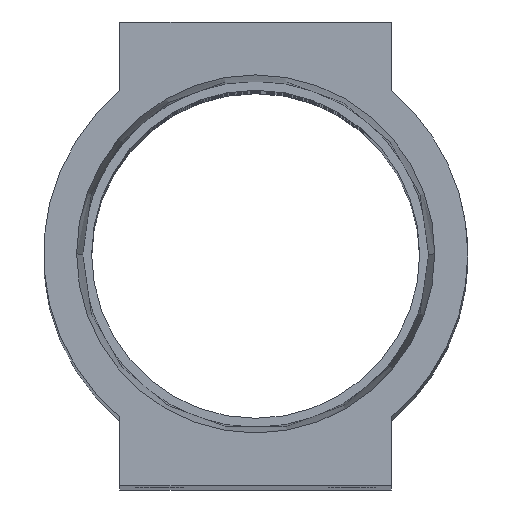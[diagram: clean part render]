
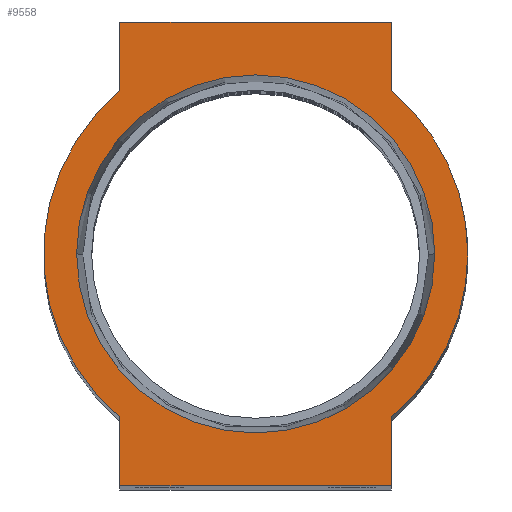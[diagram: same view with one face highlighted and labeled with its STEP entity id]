
A CAD part, top view. The second image highlights one B-rep face of the part: STEP entity #9558.
In plain terms, the highlighted planar face has unit normal (0, 0, 1).
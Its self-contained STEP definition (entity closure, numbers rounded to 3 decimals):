
#112 = CARTESIAN_POINT ( 'NONE',  ( -12., 14.407, 0. ) ) ;
#150 = VECTOR ( 'NONE', #10035, 1000. ) ;
#525 = EDGE_CURVE ( 'NONE', #7584, #4040, #10411, .T. ) ;
#543 = DIRECTION ( 'NONE',  ( 1., 0., 0. ) ) ;
#949 = CARTESIAN_POINT ( 'NONE',  ( 18.75, 0., 0. ) ) ;
#1062 = EDGE_CURVE ( 'NONE', #5601, #11707, #5150, .T. ) ;
#1094 = DIRECTION ( 'NONE',  ( 1., 0., 0. ) ) ;
#1194 = VERTEX_POINT ( 'NONE', #9303 ) ;
#1196 = CIRCLE ( 'NONE', #3751, 15.827 ) ;
#1358 = EDGE_CURVE ( 'NONE', #11983, #1194, #3465, .T. ) ;
#1449 = FACE_OUTER_BOUND ( 'NONE', #10903, .T. ) ;
#1562 = VECTOR ( 'NONE', #10115, 1000. ) ;
#1678 = CARTESIAN_POINT ( 'NONE',  ( 0., 0., 0. ) ) ;
#1681 = CARTESIAN_POINT ( 'NONE',  ( 12., 20.5, 0. ) ) ;
#2268 = ORIENTED_EDGE ( 'NONE', *, *, #2327, .T. ) ;
#2327 = EDGE_CURVE ( 'NONE', #6076, #11983, #4750, .T. ) ;
#2980 = DIRECTION ( 'NONE',  ( 0., -1., 0. ) ) ;
#3014 = ORIENTED_EDGE ( 'NONE', *, *, #7850, .T. ) ;
#3294 = CARTESIAN_POINT ( 'NONE',  ( 0., 0., 0. ) ) ;
#3465 = LINE ( 'NONE', #6284, #150 ) ;
#3467 = PLANE ( 'NONE',  #11495 ) ;
#3490 = CARTESIAN_POINT ( 'NONE',  ( -12., -20.5, 0. ) ) ;
#3751 = AXIS2_PLACEMENT_3D ( 'NONE', #8033, #4297, #10868 ) ;
#3830 = ORIENTED_EDGE ( 'NONE', *, *, #5531, .F. ) ;
#3844 = DIRECTION ( 'NONE',  ( 0., 1., 0. ) ) ;
#3961 = ORIENTED_EDGE ( 'NONE', *, *, #1062, .T. ) ;
#4040 = VERTEX_POINT ( 'NONE', #112 ) ;
#4297 = DIRECTION ( 'NONE',  ( 0., 0., 1. ) ) ;
#4333 = DIRECTION ( 'NONE',  ( 0., 0., 1. ) ) ;
#4364 = ORIENTED_EDGE ( 'NONE', *, *, #6716, .T. ) ;
#4468 = AXIS2_PLACEMENT_3D ( 'NONE', #7250, #11670, #6167 ) ;
#4750 = LINE ( 'NONE', #10347, #5017 ) ;
#5017 = VECTOR ( 'NONE', #2980, 1000. ) ;
#5033 = CIRCLE ( 'NONE', #4468, 18.75 ) ;
#5107 = VECTOR ( 'NONE', #7358, 1000. ) ;
#5150 = CIRCLE ( 'NONE', #6142, 18.75 ) ;
#5402 = ORIENTED_EDGE ( 'NONE', *, *, #10926, .T. ) ;
#5407 = ORIENTED_EDGE ( 'NONE', *, *, #1358, .T. ) ;
#5416 = VERTEX_POINT ( 'NONE', #10461 ) ;
#5517 = AXIS2_PLACEMENT_3D ( 'NONE', #11375, #5751, #1094 ) ;
#5531 = EDGE_CURVE ( 'NONE', #8789, #5416, #1196, .T. ) ;
#5540 = EDGE_CURVE ( 'NONE', #5416, #8789, #7443, .T. ) ;
#5601 = VERTEX_POINT ( 'NONE', #11097 ) ;
#5751 = DIRECTION ( 'NONE',  ( 0., 0., 1. ) ) ;
#5917 = EDGE_LOOP ( 'NONE', ( #3830, #8814 ) ) ;
#6076 = VERTEX_POINT ( 'NONE', #6471 ) ;
#6099 = VECTOR ( 'NONE', #9404, 1000. ) ;
#6142 = AXIS2_PLACEMENT_3D ( 'NONE', #3294, #4333, #543 ) ;
#6167 = DIRECTION ( 'NONE',  ( 1., 0., 0. ) ) ;
#6284 = CARTESIAN_POINT ( 'NONE',  ( -12., -20.5, 0. ) ) ;
#6366 = LINE ( 'NONE', #10901, #1562 ) ;
#6471 = CARTESIAN_POINT ( 'NONE',  ( -12., -14.407, 0. ) ) ;
#6632 = CARTESIAN_POINT ( 'NONE',  ( -12., 20.5, 0. ) ) ;
#6681 = CARTESIAN_POINT ( 'NONE',  ( 15.827, 0., 0. ) ) ;
#6716 = EDGE_CURVE ( 'NONE', #9948, #7584, #6366, .T. ) ;
#6861 = CIRCLE ( 'NONE', #5517, 18.75 ) ;
#6916 = CARTESIAN_POINT ( 'NONE',  ( -12., 20.5, 0. ) ) ;
#6962 = VERTEX_POINT ( 'NONE', #10237 ) ;
#7123 = CARTESIAN_POINT ( 'NONE',  ( 0., 0., 0. ) ) ;
#7229 = DIRECTION ( 'NONE',  ( 1., 0., 0. ) ) ;
#7250 = CARTESIAN_POINT ( 'NONE',  ( 0., 0., 0. ) ) ;
#7358 = DIRECTION ( 'NONE',  ( 0., 1., 0. ) ) ;
#7443 = CIRCLE ( 'NONE', #10601, 15.827 ) ;
#7503 = LINE ( 'NONE', #12053, #8656 ) ;
#7584 = VERTEX_POINT ( 'NONE', #6916 ) ;
#7850 = EDGE_CURVE ( 'NONE', #6962, #9948, #7503, .T. ) ;
#8033 = CARTESIAN_POINT ( 'NONE',  ( 0., 0., 0. ) ) ;
#8227 = DIRECTION ( 'NONE',  ( 0., 0., 1. ) ) ;
#8234 = LINE ( 'NONE', #12096, #5107 ) ;
#8342 = ORIENTED_EDGE ( 'NONE', *, *, #12049, .T. ) ;
#8656 = VECTOR ( 'NONE', #3844, 1000. ) ;
#8789 = VERTEX_POINT ( 'NONE', #6681 ) ;
#8814 = ORIENTED_EDGE ( 'NONE', *, *, #5540, .F. ) ;
#8858 = ORIENTED_EDGE ( 'NONE', *, *, #9560, .T. ) ;
#9303 = CARTESIAN_POINT ( 'NONE',  ( 12., -20.5, 0. ) ) ;
#9404 = DIRECTION ( 'NONE',  ( 0., -1., 0. ) ) ;
#9558 = ADVANCED_FACE ( 'NONE', ( #10829, #1449 ), #3467, .T. ) ;
#9560 = EDGE_CURVE ( 'NONE', #4040, #6076, #5033, .T. ) ;
#9846 = DIRECTION ( 'NONE',  ( 1., 0., 0. ) ) ;
#9948 = VERTEX_POINT ( 'NONE', #1681 ) ;
#10035 = DIRECTION ( 'NONE',  ( 1., 0., 0. ) ) ;
#10115 = DIRECTION ( 'NONE',  ( -1., 0., 0. ) ) ;
#10237 = CARTESIAN_POINT ( 'NONE',  ( 12., 14.407, 0. ) ) ;
#10347 = CARTESIAN_POINT ( 'NONE',  ( -12., -20.5, 0. ) ) ;
#10411 = LINE ( 'NONE', #6632, #6099 ) ;
#10461 = CARTESIAN_POINT ( 'NONE',  ( -15.827, 0., 0. ) ) ;
#10601 = AXIS2_PLACEMENT_3D ( 'NONE', #1678, #8227, #7229 ) ;
#10829 = FACE_BOUND ( 'NONE', #5917, .T. ) ;
#10868 = DIRECTION ( 'NONE',  ( 1., 0., 0. ) ) ;
#10901 = CARTESIAN_POINT ( 'NONE',  ( -12., 20.5, 0. ) ) ;
#10903 = EDGE_LOOP ( 'NONE', ( #3014, #4364, #11976, #8858, #2268, #5407, #5402, #3961, #8342 ) ) ;
#10926 = EDGE_CURVE ( 'NONE', #1194, #5601, #8234, .T. ) ;
#11097 = CARTESIAN_POINT ( 'NONE',  ( 12., -14.407, 0. ) ) ;
#11375 = CARTESIAN_POINT ( 'NONE',  ( 0., 0., 0. ) ) ;
#11495 = AXIS2_PLACEMENT_3D ( 'NONE', #7123, #11858, #9846 ) ;
#11670 = DIRECTION ( 'NONE',  ( 0., 0., 1. ) ) ;
#11707 = VERTEX_POINT ( 'NONE', #949 ) ;
#11858 = DIRECTION ( 'NONE',  ( 0., 0., 1. ) ) ;
#11976 = ORIENTED_EDGE ( 'NONE', *, *, #525, .T. ) ;
#11983 = VERTEX_POINT ( 'NONE', #3490 ) ;
#12049 = EDGE_CURVE ( 'NONE', #11707, #6962, #6861, .T. ) ;
#12053 = CARTESIAN_POINT ( 'NONE',  ( 12., 20.5, 0. ) ) ;
#12096 = CARTESIAN_POINT ( 'NONE',  ( 12., -20.5, 0. ) ) ;
